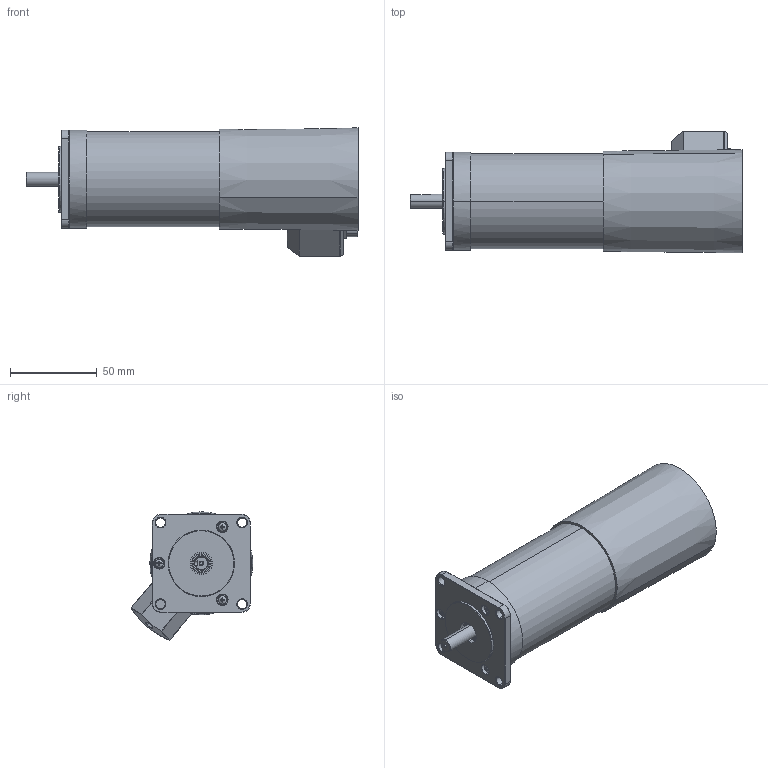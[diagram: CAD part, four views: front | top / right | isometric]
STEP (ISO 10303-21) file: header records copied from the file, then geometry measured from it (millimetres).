
FILE_DESCRIPTION((''),'2;1');
FILE_NAME('STEPPERASSY_ASM','2023-04-10T16:43:14',('Administrator'),(''),'CREO PARAMETRIC BY PTC INC, 2022014','CREO PARAMETRIC BY PTC INC, 2022014','');
FILE_SCHEMA(('AUTOMOTIVE_DESIGN { 1 0 10303 214 1 1 1 1 }'));
Length unit declared in the file: millimetre
Products named in the file (7): SF_STO; SF42; SHAFT_C; NEWBEARING_I42; CENT_MAC_PART_NEW_1; MAC_MOTOR_ASM; STEPPERASSY_ASM
Assembly tree (6 placements, depth 3):
  STEPPERASSY_ASM
    MAC_MOTOR_ASM
      SF_STO
      SF42
      SHAFT_C
      NEWBEARING_I42
      CENT_MAC_PART_NEW_1
Bounding box: 191.6 x 70.24 x 74.09 mm (x, y, z)
Volume: 266548.4 mm3; surface area: 82244.7 mm2
Topology: 15 solids, 15 shells, 892 faces, 2318 edges, 1479 vertices
Faces by surface type: plane 278, cylinder 260, cone 184, torus 76, sphere 54, bspline 40
Entity records: 45444 total; most frequent: CARTESIAN_POINT 11098, DIRECTION 4949, ORIENTED_EDGE 4478, EDGE_CURVE 2239, AXIS2_PLACEMENT_3D 2058, PRESENTATION_STYLE_ASSIGNMENT 1964, STYLED_ITEM 1587, CURVE_STYLE 1561
